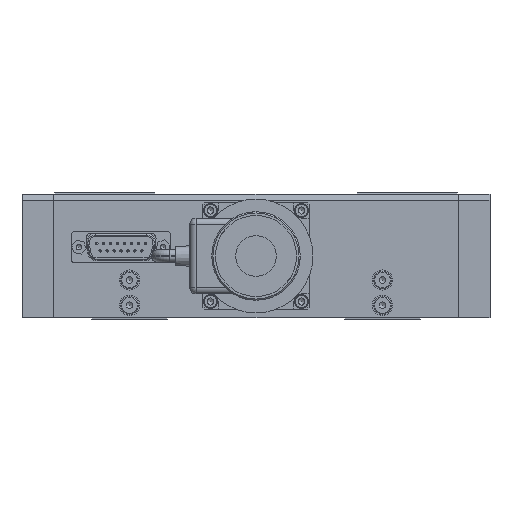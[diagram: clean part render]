
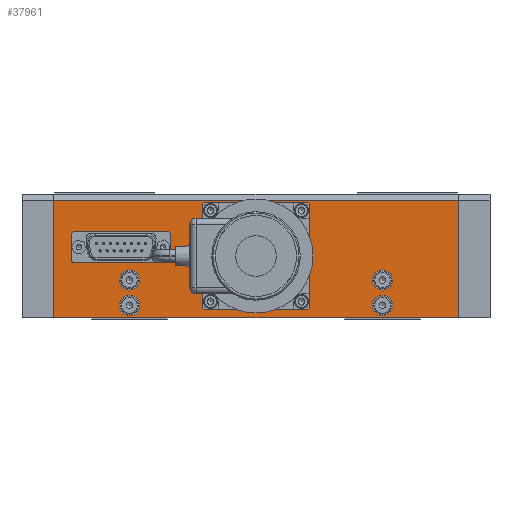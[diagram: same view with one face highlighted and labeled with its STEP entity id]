
A CAD part, front view. The second image highlights one B-rep face of the part: STEP entity #37961.
In plain terms, the highlighted planar face has unit normal (0, -1, 0).
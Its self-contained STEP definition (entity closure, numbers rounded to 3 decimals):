
#1718=CIRCLE('',#40784,4.);
#1719=CIRCLE('',#40785,4.);
#1724=CIRCLE('',#40793,4.);
#1725=CIRCLE('',#40794,4.);
#1730=CIRCLE('',#40802,4.);
#1731=CIRCLE('',#40803,4.);
#1736=CIRCLE('',#40811,4.);
#1737=CIRCLE('',#40812,4.);
#1739=CIRCLE('',#40816,1.23);
#1740=CIRCLE('',#40817,1.23);
#1742=CIRCLE('',#40820,1.23);
#1743=CIRCLE('',#40821,1.23);
#1745=CIRCLE('',#40824,1.23);
#1746=CIRCLE('',#40825,1.23);
#1748=CIRCLE('',#40828,1.23);
#1749=CIRCLE('',#40829,1.23);
#1751=CIRCLE('',#40832,11.05);
#3208=FACE_BOUND('',#6331,.T.);
#3209=FACE_BOUND('',#6332,.T.);
#3210=FACE_BOUND('',#6333,.T.);
#3211=FACE_BOUND('',#6334,.T.);
#3212=FACE_BOUND('',#6335,.T.);
#3213=FACE_BOUND('',#6336,.T.);
#3214=FACE_BOUND('',#6337,.T.);
#3215=FACE_BOUND('',#6338,.T.);
#3216=FACE_BOUND('',#6339,.T.);
#4129=FACE_OUTER_BOUND('',#6330,.T.);
#6330=EDGE_LOOP('',(#26471,#26472,#26473,#26474));
#6331=EDGE_LOOP('',(#26475,#26476));
#6332=EDGE_LOOP('',(#26477,#26478));
#6333=EDGE_LOOP('',(#26479,#26480));
#6334=EDGE_LOOP('',(#26481,#26482));
#6335=EDGE_LOOP('',(#26483,#26484));
#6336=EDGE_LOOP('',(#26485,#26486));
#6337=EDGE_LOOP('',(#26487,#26488));
#6338=EDGE_LOOP('',(#26489,#26490));
#6339=EDGE_LOOP('',(#26491));
#8745=LINE('',#59030,#11835);
#8746=LINE('',#59032,#11836);
#8747=LINE('',#59034,#11837);
#8748=LINE('',#59035,#11838);
#11835=VECTOR('',#46690,10.);
#11836=VECTOR('',#46691,10.);
#11837=VECTOR('',#46692,10.);
#11838=VECTOR('',#46693,10.);
#15361=VERTEX_POINT('',#58929);
#15362=VERTEX_POINT('',#58930);
#15367=VERTEX_POINT('',#58946);
#15368=VERTEX_POINT('',#58947);
#15373=VERTEX_POINT('',#58963);
#15374=VERTEX_POINT('',#58964);
#15379=VERTEX_POINT('',#58980);
#15380=VERTEX_POINT('',#58981);
#15382=VERTEX_POINT('',#58990);
#15383=VERTEX_POINT('',#58991);
#15385=VERTEX_POINT('',#58998);
#15386=VERTEX_POINT('',#58999);
#15388=VERTEX_POINT('',#59006);
#15389=VERTEX_POINT('',#59007);
#15391=VERTEX_POINT('',#59014);
#15392=VERTEX_POINT('',#59015);
#15394=VERTEX_POINT('',#59022);
#15396=VERTEX_POINT('',#59028);
#15397=VERTEX_POINT('',#59029);
#15398=VERTEX_POINT('',#59031);
#15399=VERTEX_POINT('',#59033);
#19506=EDGE_CURVE('',#15361,#15362,#1718,.T.);
#19507=EDGE_CURVE('',#15362,#15361,#1719,.T.);
#19514=EDGE_CURVE('',#15367,#15368,#1724,.T.);
#19515=EDGE_CURVE('',#15368,#15367,#1725,.T.);
#19522=EDGE_CURVE('',#15373,#15374,#1730,.T.);
#19523=EDGE_CURVE('',#15374,#15373,#1731,.T.);
#19530=EDGE_CURVE('',#15379,#15380,#1736,.T.);
#19531=EDGE_CURVE('',#15380,#15379,#1737,.T.);
#19535=EDGE_CURVE('',#15382,#15383,#1739,.T.);
#19536=EDGE_CURVE('',#15383,#15382,#1740,.T.);
#19539=EDGE_CURVE('',#15385,#15386,#1742,.T.);
#19540=EDGE_CURVE('',#15386,#15385,#1743,.T.);
#19543=EDGE_CURVE('',#15388,#15389,#1745,.T.);
#19544=EDGE_CURVE('',#15389,#15388,#1746,.T.);
#19547=EDGE_CURVE('',#15391,#15392,#1748,.T.);
#19548=EDGE_CURVE('',#15392,#15391,#1749,.T.);
#19551=EDGE_CURVE('',#15394,#15394,#1751,.T.);
#19554=EDGE_CURVE('',#15396,#15397,#8745,.T.);
#19555=EDGE_CURVE('',#15398,#15397,#8746,.T.);
#19556=EDGE_CURVE('',#15399,#15398,#8747,.T.);
#19557=EDGE_CURVE('',#15399,#15396,#8748,.T.);
#26471=ORIENTED_EDGE('',*,*,#19554,.T.);
#26472=ORIENTED_EDGE('',*,*,#19555,.F.);
#26473=ORIENTED_EDGE('',*,*,#19556,.F.);
#26474=ORIENTED_EDGE('',*,*,#19557,.T.);
#26475=ORIENTED_EDGE('',*,*,#19506,.T.);
#26476=ORIENTED_EDGE('',*,*,#19507,.T.);
#26477=ORIENTED_EDGE('',*,*,#19514,.T.);
#26478=ORIENTED_EDGE('',*,*,#19515,.T.);
#26479=ORIENTED_EDGE('',*,*,#19522,.T.);
#26480=ORIENTED_EDGE('',*,*,#19523,.T.);
#26481=ORIENTED_EDGE('',*,*,#19530,.T.);
#26482=ORIENTED_EDGE('',*,*,#19531,.T.);
#26483=ORIENTED_EDGE('',*,*,#19535,.T.);
#26484=ORIENTED_EDGE('',*,*,#19536,.T.);
#26485=ORIENTED_EDGE('',*,*,#19539,.T.);
#26486=ORIENTED_EDGE('',*,*,#19540,.T.);
#26487=ORIENTED_EDGE('',*,*,#19543,.T.);
#26488=ORIENTED_EDGE('',*,*,#19544,.T.);
#26489=ORIENTED_EDGE('',*,*,#19547,.T.);
#26490=ORIENTED_EDGE('',*,*,#19548,.T.);
#26491=ORIENTED_EDGE('',*,*,#19551,.T.);
#34401=PLANE('',#40834);
#37961=ADVANCED_FACE('',(#4129,#3208,#3209,#3210,#3211,#3212,#3213,#3214,
#3215,#3216),#34401,.T.);
#40784=AXIS2_PLACEMENT_3D('',#58931,#46575,#46576);
#40785=AXIS2_PLACEMENT_3D('',#58932,#46577,#46578);
#40793=AXIS2_PLACEMENT_3D('',#58948,#46595,#46596);
#40794=AXIS2_PLACEMENT_3D('',#58949,#46597,#46598);
#40802=AXIS2_PLACEMENT_3D('',#58965,#46615,#46616);
#40803=AXIS2_PLACEMENT_3D('',#58966,#46617,#46618);
#40811=AXIS2_PLACEMENT_3D('',#58982,#46635,#46636);
#40812=AXIS2_PLACEMENT_3D('',#58983,#46637,#46638);
#40816=AXIS2_PLACEMENT_3D('',#58992,#46647,#46648);
#40817=AXIS2_PLACEMENT_3D('',#58993,#46649,#46650);
#40820=AXIS2_PLACEMENT_3D('',#59000,#46656,#46657);
#40821=AXIS2_PLACEMENT_3D('',#59001,#46658,#46659);
#40824=AXIS2_PLACEMENT_3D('',#59008,#46665,#46666);
#40825=AXIS2_PLACEMENT_3D('',#59009,#46667,#46668);
#40828=AXIS2_PLACEMENT_3D('',#59016,#46674,#46675);
#40829=AXIS2_PLACEMENT_3D('',#59017,#46676,#46677);
#40832=AXIS2_PLACEMENT_3D('',#59023,#46683,#46684);
#40834=AXIS2_PLACEMENT_3D('',#59027,#46688,#46689);
#46575=DIRECTION('center_axis',(0.,1.,0.));
#46576=DIRECTION('ref_axis',(1.,0.,0.));
#46577=DIRECTION('center_axis',(0.,1.,0.));
#46578=DIRECTION('ref_axis',(1.,0.,0.));
#46595=DIRECTION('center_axis',(0.,1.,0.));
#46596=DIRECTION('ref_axis',(1.,0.,0.));
#46597=DIRECTION('center_axis',(0.,1.,0.));
#46598=DIRECTION('ref_axis',(1.,0.,0.));
#46615=DIRECTION('center_axis',(0.,1.,0.));
#46616=DIRECTION('ref_axis',(1.,0.,0.));
#46617=DIRECTION('center_axis',(0.,1.,0.));
#46618=DIRECTION('ref_axis',(1.,0.,0.));
#46635=DIRECTION('center_axis',(0.,1.,0.));
#46636=DIRECTION('ref_axis',(1.,0.,0.));
#46637=DIRECTION('center_axis',(0.,1.,0.));
#46638=DIRECTION('ref_axis',(1.,0.,0.));
#46647=DIRECTION('center_axis',(0.,1.,0.));
#46648=DIRECTION('ref_axis',(1.,0.,0.));
#46649=DIRECTION('center_axis',(0.,1.,0.));
#46650=DIRECTION('ref_axis',(1.,0.,0.));
#46656=DIRECTION('center_axis',(0.,1.,0.));
#46657=DIRECTION('ref_axis',(1.,0.,0.));
#46658=DIRECTION('center_axis',(0.,1.,0.));
#46659=DIRECTION('ref_axis',(1.,0.,0.));
#46665=DIRECTION('center_axis',(0.,1.,0.));
#46666=DIRECTION('ref_axis',(1.,0.,0.));
#46667=DIRECTION('center_axis',(0.,1.,0.));
#46668=DIRECTION('ref_axis',(1.,0.,0.));
#46674=DIRECTION('center_axis',(0.,1.,0.));
#46675=DIRECTION('ref_axis',(1.,0.,0.));
#46676=DIRECTION('center_axis',(0.,1.,0.));
#46677=DIRECTION('ref_axis',(1.,0.,0.));
#46683=DIRECTION('center_axis',(0.,1.,0.));
#46684=DIRECTION('ref_axis',(-1.,0.,0.));
#46688=DIRECTION('center_axis',(0.,-1.,0.));
#46689=DIRECTION('ref_axis',(1.,0.,0.));
#46690=DIRECTION('',(0.,0.,1.));
#46691=DIRECTION('',(1.,0.,0.));
#46692=DIRECTION('',(0.,0.,1.));
#46693=DIRECTION('',(1.,0.,0.));
#58929=CARTESIAN_POINT('',(134.677,-182.491,-34.6));
#58930=CARTESIAN_POINT('',(126.677,-182.491,-34.6));
#58931=CARTESIAN_POINT('Origin',(130.677,-182.491,-34.6));
#58932=CARTESIAN_POINT('Origin',(130.677,-182.491,-34.6));
#58946=CARTESIAN_POINT('',(34.677,-182.491,-34.6));
#58947=CARTESIAN_POINT('',(26.677,-182.491,-34.6));
#58948=CARTESIAN_POINT('Origin',(30.677,-182.491,-34.6));
#58949=CARTESIAN_POINT('Origin',(30.677,-182.491,-34.6));
#58963=CARTESIAN_POINT('',(34.677,-182.491,-44.6));
#58964=CARTESIAN_POINT('',(26.677,-182.491,-44.6));
#58965=CARTESIAN_POINT('Origin',(30.677,-182.491,-44.6));
#58966=CARTESIAN_POINT('Origin',(30.677,-182.491,-44.6));
#58980=CARTESIAN_POINT('',(134.677,-182.491,-44.6));
#58981=CARTESIAN_POINT('',(126.677,-182.491,-44.6));
#58982=CARTESIAN_POINT('Origin',(130.677,-182.491,-44.6));
#58983=CARTESIAN_POINT('Origin',(130.677,-182.491,-44.6));
#58990=CARTESIAN_POINT('',(99.906,-182.491,-43.1));
#58991=CARTESIAN_POINT('',(97.447,-182.491,-43.1));
#58992=CARTESIAN_POINT('Origin',(98.677,-182.491,-43.1));
#58993=CARTESIAN_POINT('Origin',(98.677,-182.491,-43.1));
#58998=CARTESIAN_POINT('',(63.906,-182.491,-7.1));
#58999=CARTESIAN_POINT('',(61.447,-182.491,-7.1));
#59000=CARTESIAN_POINT('Origin',(62.677,-182.491,-7.1));
#59001=CARTESIAN_POINT('Origin',(62.677,-182.491,-7.1));
#59006=CARTESIAN_POINT('',(63.906,-182.491,-43.1));
#59007=CARTESIAN_POINT('',(61.447,-182.491,-43.1));
#59008=CARTESIAN_POINT('Origin',(62.677,-182.491,-43.1));
#59009=CARTESIAN_POINT('Origin',(62.677,-182.491,-43.1));
#59014=CARTESIAN_POINT('',(99.906,-182.491,-7.1));
#59015=CARTESIAN_POINT('',(97.447,-182.491,-7.1));
#59016=CARTESIAN_POINT('Origin',(98.677,-182.491,-7.1));
#59017=CARTESIAN_POINT('Origin',(98.677,-182.491,-7.1));
#59022=CARTESIAN_POINT('',(91.727,-182.491,-25.1));
#59023=CARTESIAN_POINT('Origin',(80.677,-182.491,-25.1));
#59027=CARTESIAN_POINT('Origin',(0.677,-182.491,-49.6));
#59028=CARTESIAN_POINT('',(160.677,-182.491,-49.6));
#59029=CARTESIAN_POINT('',(160.677,-182.491,-3.1));
#59030=CARTESIAN_POINT('',(160.677,-182.491,-49.6));
#59031=CARTESIAN_POINT('',(0.677,-182.491,-3.1));
#59032=CARTESIAN_POINT('',(0.677,-182.491,-3.1));
#59033=CARTESIAN_POINT('',(0.677,-182.491,-49.6));
#59034=CARTESIAN_POINT('',(0.677,-182.491,-49.6));
#59035=CARTESIAN_POINT('',(0.677,-182.491,-49.6));
